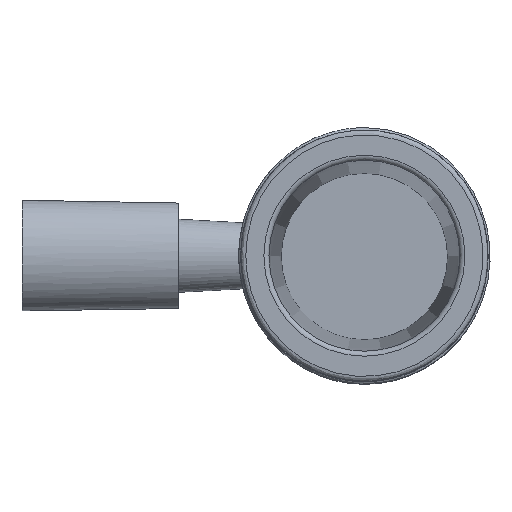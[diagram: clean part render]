
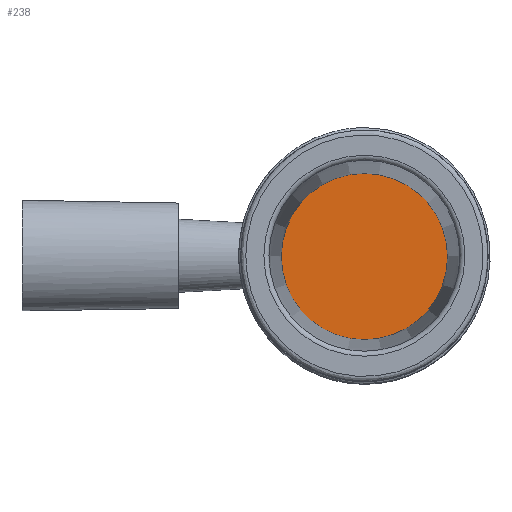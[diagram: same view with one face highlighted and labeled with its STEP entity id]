
A CAD part, top view. The second image highlights one B-rep face of the part: STEP entity #238.
In plain terms, the highlighted planar face has unit normal (0, 0, 1).
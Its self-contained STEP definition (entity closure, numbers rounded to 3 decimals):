
#238=ADVANCED_FACE('',(#2139),#2141,.T.);
#2139=FACE_BOUND('',#2140,.T.);
#2140=EDGE_LOOP('',(#2463));
#2141=PLANE('',#2142);
#2142=AXIS2_PLACEMENT_3D('',#2143,#2144,#2145);
#2143=CARTESIAN_POINT('',(0.,0.,5.));
#2144=DIRECTION('',(0.,-0.,1.));
#2145=DIRECTION('',(1.,0.,0.));
#2463=ORIENTED_EDGE('',*,*,#2513,.T.);
#2513=EDGE_CURVE('',#2573,#2573,#2574,.T.);
#2573=VERTEX_POINT('',#5114);
#2574=CIRCLE('',#5115,16.539);
#5114=CARTESIAN_POINT('',(16.539,0.,5.));
#5115=AXIS2_PLACEMENT_3D('',#5116,#5117,#5118);
#5116=CARTESIAN_POINT('',(0.,0.,5.));
#5117=DIRECTION('',(0.,-0.,1.));
#5118=DIRECTION('',(1.,0.,0.));
